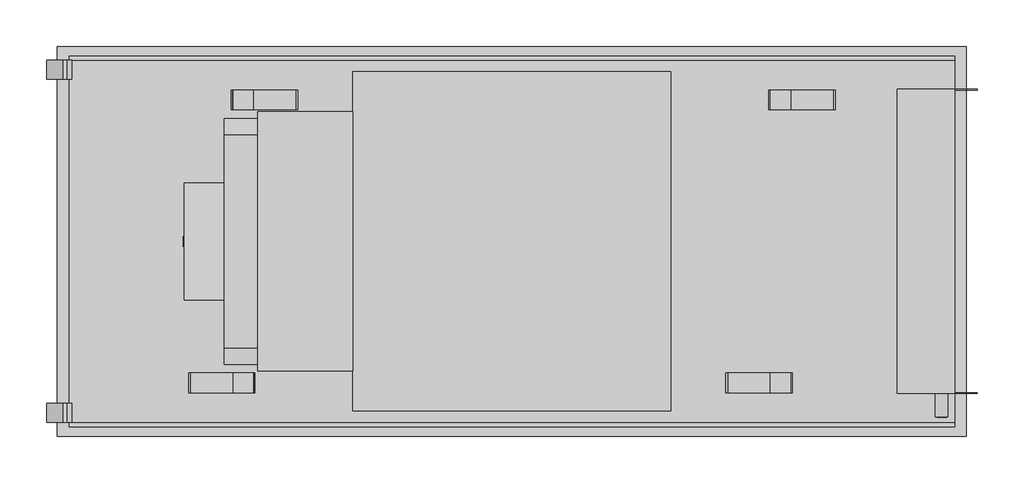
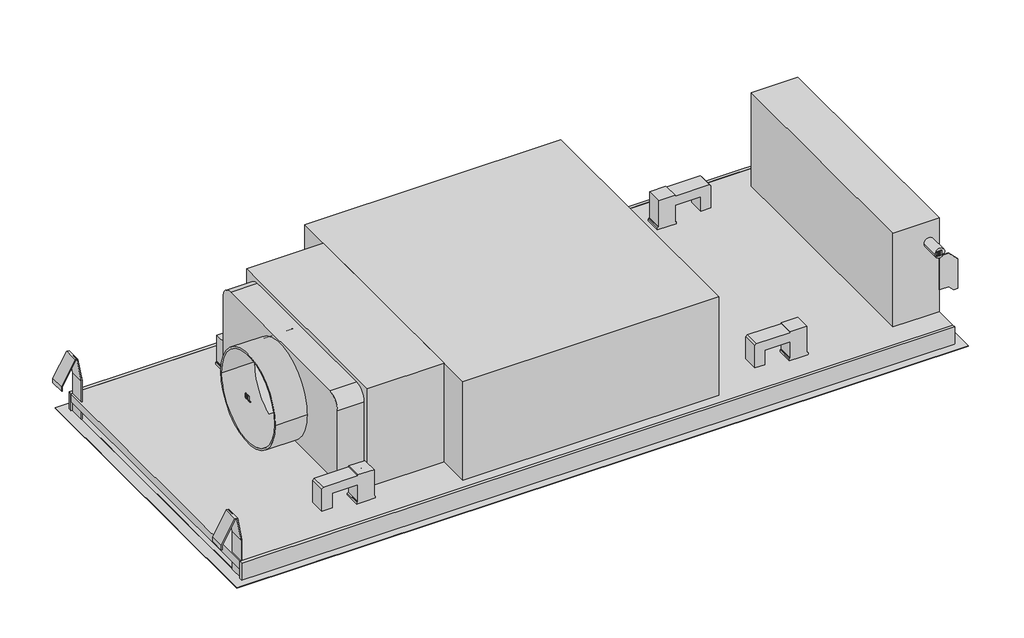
# Not in any storey: 1 proxy.
"""IFC4 building model written with IfcOpenShell, lengths in millimetres."""

import ifcopenshell
import ifcopenshell.guid

model = None  # the IFC model being written
_history = None  # IfcOwnerHistory: only IFC2X3 demands one
_inside = {}  # id of a spatial element -> (the spatial element, [elements in it])
_under = {}  # id of a project, library or spatial element -> (it, [spatial elements below it])
_declared = {}  # id of a project -> (the project, [libraries it declares])
_typed = {}  # id of a type object -> (the type object, [elements of that type])
_made_of = {}  # id of a material, layer set ... -> (it, [elements and type objects made of it])


def new_model(schema):
    """Start an empty IFC model of exactly this schema.

    Asked for "IFC4X3", IfcOpenShell would pick the latest addendum, in which some entities
    have other attributes; the version numbers below select the first issue.
    IFC2X3 requires an IfcOwnerHistory on every rooted entity: one is made here for all.
    """
    global model, _history
    if schema == "IFC4X3":
        model = ifcopenshell.file(schema_version=(4, 3, 0, 0))
    else:
        model = ifcopenshell.file(schema=schema)
    _inside.clear()
    _under.clear()
    _declared.clear()
    _typed.clear()
    _made_of.clear()
    _history = None
    if model.schema == "IFC2X3":
        org = make("IfcOrganization", Name="unknown")
        user = make(
            "IfcPersonAndOrganization",
            ThePerson=make("IfcPerson", FamilyName="unknown"),
            TheOrganization=org,
        )
        app = make(
            "IfcApplication",
            ApplicationDeveloper=org,
            Version="unknown",
            ApplicationFullName="unknown",
            ApplicationIdentifier="unknown",
        )
        _history = make(
            "IfcOwnerHistory",
            OwningUser=user,
            OwningApplication=app,
            ChangeAction="ADDED",
            CreationDate=0,
        )
    return model


def make(cls, **values):
    """One entity of the class cls with the attributes given. An attribute that is None is left unset."""
    return model.create_entity(
        cls, **{name: value for name, value in values.items() if value is not None}
    )


def rooted(cls, **values):
    """An entity with a GlobalId (a new one), such as an element, a storey or a relation."""
    return make(cls, GlobalId=ifcopenshell.guid.new(), OwnerHistory=_history, **values)


def si_unit(unit_type, name, prefix=None):
    """IfcSIUnit, for example si_unit("LENGTHUNIT", "METRE", prefix="MILLI")."""
    return make("IfcSIUnit", UnitType=unit_type, Prefix=prefix, Name=name)


def assignment(units):
    """IfcUnitAssignment: the units of a project."""
    return None if units is None else make("IfcUnitAssignment", Units=units)


def point(xyz):
    """IfcCartesianPoint."""
    return None if xyz is None else make("IfcCartesianPoint", Coordinates=xyz)


def direction(xyz):
    """IfcDirection."""
    return None if xyz is None else make("IfcDirection", DirectionRatios=xyz)


def frame(location, z_axis=None, x_axis=None):
    """IfcAxis2Placement3D, a coordinate frame: its origin and axes. An axis left out is left unset."""
    return make(
        "IfcAxis2Placement3D",
        Location=point(location),
        Axis=direction(z_axis),
        RefDirection=direction(x_axis),
    )


def frame_2d(location, x_axis=None):
    """IfcAxis2Placement2D, a coordinate frame in the plane: its origin and x axis."""
    return make(
        "IfcAxis2Placement2D", Location=point(location), RefDirection=direction(x_axis)
    )


def origin():
    """The frame at (0, 0, 0) with its axes left unset."""
    return frame((0.0, 0.0, 0.0))


def origin_with_axes():
    """The frame at (0, 0, 0) with the z axis (0, 0, 1) and the x axis (1, 0, 0) written out."""
    return frame((0.0, 0.0, 0.0), z_axis=(0.0, 0.0, 1.0), x_axis=(1.0, 0.0, 0.0))


def place(relative_to, where):
    """IfcLocalPlacement: puts the frame where relative to a parent placement (None: the world)."""
    return make(
        "IfcLocalPlacement", PlacementRelTo=relative_to, RelativePlacement=where
    )


def context(
    kind, dimensions, precision=None, world=None, true_north=None, identifier=None
):
    """IfcGeometricRepresentationContext, for example the 3D "Model" context."""
    return make(
        "IfcGeometricRepresentationContext",
        ContextIdentifier=identifier,
        ContextType=kind,
        CoordinateSpaceDimension=dimensions,
        Precision=precision,
        WorldCoordinateSystem=world,
        TrueNorth=true_north,
    )


def project(units=None, contexts=None):
    """IfcProject with its units and contexts."""
    return rooted(
        "IfcProject",
        Name="project",
        RepresentationContexts=contexts,
        UnitsInContext=assignment(units),
    )


def spatial(cls, under=None, at=None, **own):
    """A site, building, storey or space (cls), placed at a placement, below another one or the project."""
    s = rooted(cls, ObjectPlacement=at, **own)
    if under is not None:
        _under.setdefault(under.id(), (under, []))[1].append(s)
    return s


def polyline(points):
    """IfcPolyline through the points."""
    return make("IfcPolyline", Points=[point(p) for p in points])


def circle_curve(where, radius):
    """IfcCircle in the frame where."""
    return make("IfcCircle", Position=where, Radius=radius)


def ellipse_curve(where, semi_axis1, semi_axis2):
    """IfcEllipse in the frame where."""
    return make(
        "IfcEllipse", Position=where, SemiAxis1=semi_axis1, SemiAxis2=semi_axis2
    )


def trimmed(basis, trim1, trim2, sense, master):
    """IfcTrimmedCurve: the piece of a basis curve between two trims."""
    return make(
        "IfcTrimmedCurve",
        BasisCurve=basis,
        Trim1=trim1,
        Trim2=trim2,
        SenseAgreement=sense,
        MasterRepresentation=master,
    )


def segment(curve, same_sense, transition):
    """IfcCompositeCurveSegment."""
    return make(
        "IfcCompositeCurveSegment",
        Transition=transition,
        SameSense=same_sense,
        ParentCurve=curve,
    )


def composite_curve(segments, self_intersect=None):
    """IfcCompositeCurve: segments joined end to end."""
    return make("IfcCompositeCurve", Segments=segments, SelfIntersect=self_intersect)


def outline(outer, holes=None, kind="AREA"):
    """IfcArbitraryClosedProfileDef: a profile drawn as a closed curve; with holes, ...WithVoids."""
    if holes is None:
        return make("IfcArbitraryClosedProfileDef", ProfileType=kind, OuterCurve=outer)
    return make(
        "IfcArbitraryProfileDefWithVoids",
        ProfileType=kind,
        OuterCurve=outer,
        InnerCurves=holes,
    )


def extrude(swept, where, along, depth):
    """IfcExtrudedAreaSolid: the profile swept, set in the frame where, extruded along a direction by depth."""
    return make(
        "IfcExtrudedAreaSolid",
        SweptArea=swept,
        Position=where,
        ExtrudedDirection=direction(along),
        Depth=depth,
    )


def faces_of(points, faces, orient=None, outer=None):
    """IfcFace entities. A face is a list of loops; a loop is a list of indices into points, from 0.

    orient and outer hold one flag for each loop. By default every Orientation is true, the
    first loop of a face is its IfcFaceOuterBound and the others are IfcFaceBound.
    """
    made = []
    for i, loops in enumerate(faces):
        bounds = []
        for j, loop in enumerate(loops):
            is_outer = j == 0 if outer is None else outer[i][j]
            bounds.append(
                make(
                    "IfcFaceOuterBound" if is_outer else "IfcFaceBound",
                    Bound=make("IfcPolyLoop", Polygon=[points[k] for k in loop]),
                    Orientation=True if orient is None else orient[i][j],
                )
            )
        made.append(make("IfcFace", Bounds=bounds))
    return made


def faceted_brep(points, faces, orient=None, outer=None, voids=None):
    """IfcFacetedBrep: a solid bounded by flat faces; with voids (closed shells), ...WithVoids."""
    shared = [point(p) for p in points]
    hull = make("IfcClosedShell", CfsFaces=faces_of(shared, faces, orient, outer))
    if voids is None:
        return make("IfcFacetedBrep", Outer=hull)
    return make(
        "IfcFacetedBrepWithVoids",
        Outer=hull,
        Voids=[
            make(cls, CfsFaces=faces_of(shared, fs, o, b)) for cls, fs, o, b in voids
        ],
    )


def shape(context_of_items, identifier, shape_type, items):
    """IfcShapeRepresentation: the items that make up one representation, for example the "Body"."""
    return make(
        "IfcShapeRepresentation",
        ContextOfItems=context_of_items,
        RepresentationIdentifier=identifier,
        RepresentationType=shape_type,
        Items=items,
    )


def source(mapping_origin, context_of_items, identifier, shape_type, items):
    """IfcRepresentationMap: a shape defined once, which mapped items show again and again."""
    return make(
        "IfcRepresentationMap",
        MappingOrigin=mapping_origin,
        MappedRepresentation=shape(context_of_items, identifier, shape_type, items),
    )


def transform(
    local_origin,
    x_axis=None,
    y_axis=None,
    z_axis=None,
    scale=None,
    scale2=None,
    scale3=None,
    uniform=True,
):
    """IfcCartesianTransformationOperator3D, or its non-uniform kind. x_axis, y_axis, z_axis: its Axis1, 2, 3."""
    if uniform:
        return make(
            "IfcCartesianTransformationOperator3D",
            Axis1=direction(x_axis),
            Axis2=direction(y_axis),
            LocalOrigin=point(local_origin),
            Scale=scale,
            Axis3=direction(z_axis),
        )
    return make(
        "IfcCartesianTransformationOperator3DnonUniform",
        Axis1=direction(x_axis),
        Axis2=direction(y_axis),
        LocalOrigin=point(local_origin),
        Scale=scale,
        Axis3=direction(z_axis),
        Scale2=scale2,
        Scale3=scale3,
    )


def mapped(mapping_source, mapping_target):
    """IfcMappedItem: shows the shape of a source again, moved by a transform."""
    return make(
        "IfcMappedItem", MappingSource=mapping_source, MappingTarget=mapping_target
    )


def made_of(thing, what):
    """Note that an element or type object is made of a material, layer set ...; save() writes the relation."""
    if what is not None:
        _made_of.setdefault(what.id(), (what, []))[1].append(thing)
    return thing


def element(
    cls,
    number,
    at=None,
    inside=None,
    cuts=None,
    type_object=None,
    material=None,
    context=None,
    identifier="Body",
    shape_type=None,
    held_by="IfcProductDefinitionShape",
    body=None,
    shapes=None,
    **own,
):
    """One element of the class cls, such as IfcWall. Its Tag is "e" and its number.

    at: its placement. inside: the storey or other place that contains it. cuts: it is an
    opening in that element (IfcRelVoidsElement). A single representation is given by context,
    identifier, shape_type and body (its items); several are given by shapes. held_by: the class
    of the entity that holds the representations. save() writes the other relations.
    """
    e = rooted(cls, Tag="e%d" % number, ObjectPlacement=at, **own)
    if body is not None:
        shapes = [shape(context, identifier, shape_type, body)]
    if shapes is not None:
        e.Representation = make(held_by, Representations=shapes)
    if inside is not None:
        _inside.setdefault(inside.id(), (inside, []))[1].append(e)
    if cuts is not None:
        rooted(
            "IfcRelVoidsElement", RelatingBuildingElement=cuts, RelatedOpeningElement=e
        )
    if type_object is not None:
        _typed.setdefault(type_object.id(), (type_object, []))[1].append(e)
    return made_of(e, material)


def aggregate(whole, parts):
    """IfcRelAggregates: a whole, such as a stair, and the parts it consists of."""
    return rooted("IfcRelAggregates", RelatingObject=whole, RelatedObjects=parts)


def save(model, path):
    """Write the relations noted so far, then the file.

    IfcRelAggregates (storeys below a building ...), IfcRelContainedInSpatialStructure (elements
    in a storey), IfcRelDefinesByType, IfcRelAssociatesMaterial and IfcRelDeclares: one each for
    every whole, place, type object, material and project.
    """
    for whole, parts in _under.values():
        aggregate(whole, parts)
    for where, things in _inside.values():
        rooted(
            "IfcRelContainedInSpatialStructure",
            RelatedElements=things,
            RelatingStructure=where,
        )
    for kind, things in _typed.values():
        rooted("IfcRelDefinesByType", RelatedObjects=things, RelatingType=kind)
    for what, things in _made_of.values():
        rooted("IfcRelAssociatesMaterial", RelatedObjects=things, RelatingMaterial=what)
    for by, libraries in _declared.values():
        rooted("IfcRelDeclares", RelatingContext=by, RelatedDefinitions=libraries)
    model.write(path)


def plane_surface(at):
    """IfcPlane: the flat surface through the origin of the frame at, square to its z axis."""
    return make("IfcPlane", Position=at)


def cylinder_surface(at, radius):
    """IfcCylindricalSurface: all points at the distance radius from the z axis of the frame at."""
    return make("IfcCylindricalSurface", Position=at, Radius=radius)


def revolved_surface(curve, axis_point, axis_direction):
    """IfcSurfaceOfRevolution: the curve turned about the line through axis_point along axis_direction."""
    return make(
        "IfcSurfaceOfRevolution",
        SweptCurve=make("IfcArbitraryOpenProfileDef", ProfileType="CURVE", Curve=curve),
        AxisPosition=make("IfcAxis1Placement", Location=point(axis_point), Axis=direction(axis_direction)),
    )


def extruded_surface(curve, direction_of_extrusion, depth):
    """IfcSurfaceOfLinearExtrusion: the curve pushed along a direction by depth."""
    return make(
        "IfcSurfaceOfLinearExtrusion",
        SweptCurve=make("IfcArbitraryOpenProfileDef", ProfileType="CURVE", Curve=curve),
        ExtrudedDirection=direction(direction_of_extrusion),
        Depth=depth,
    )


def advanced_brep(points, edges, surfaces, faces):
    """IfcAdvancedBrep: a solid bounded by faces that lie on surfaces and meet in shared edges.

    An edge is (start, end): straight between two places in points (the first is 0);
    or (start, end, curve); or (start, end, curve, False) where it runs against its curve.
    A face is (place in surfaces, loops), or (place, loops, False) where it looks against
    its surface's normal. A loop lists edges by number (the first is 1), with a minus sign
    where the edge is run from its end to its start. The first loop is the outer one.
    """
    corners = [point(p) for p in points]
    vertices = [make("IfcVertexPoint", VertexGeometry=c) for c in corners]
    made = []
    for start, end, *more in edges:
        made.append(
            make(
                "IfcEdgeCurve",
                EdgeStart=vertices[start],
                EdgeEnd=vertices[end],
                EdgeGeometry=more[0] if more else make("IfcPolyline", Points=[corners[start], corners[end]]),
                SameSense=more[1] if len(more) > 1 else True,
            )
        )
    hull = []
    for where, loops, *sense in faces:
        bounds = []
        for j, loop in enumerate(loops):
            ring = [make("IfcOrientedEdge", EdgeElement=made[abs(k) - 1], Orientation=k > 0) for k in loop]
            bounds.append(
                make(
                    "IfcFaceOuterBound" if j == 0 else "IfcFaceBound",
                    Bound=make("IfcEdgeLoop", EdgeList=ring),
                    Orientation=True,
                )
            )
        hull.append(make("IfcAdvancedFace", Bounds=bounds, FaceSurface=surfaces[where], SameSense=sense[0] if sense else True))
    return make("IfcAdvancedBrep", Outer=make("IfcClosedShell", CfsFaces=hull))


def specialty_equipment_91089ce4(model_context):
    return source(origin(), model_context, "Body", "SolidModel", [
        extrude(outline(polyline([(0.0, 0.0), (1.1495, 0.0), (1.1495, 6.3555), (0.0, 6.3555), (0.0, 7.9515), (4.18, 7.9515), (4.18, 6.3555), (3.04, 6.3555), (3.04, 2.3238752), (7.2865, 7.9515), (11.552, 2.1987777), (11.552, 6.3555), (10.3835, 6.3555), (10.3835, 7.9515), (17.9645, 7.9515), (17.9645, 6.3555), (16.758, 6.3555), (16.758, 0.0), (17.9645, 0.0), (17.9645, -1.5485), (12.179, -1.5485), (9.405, 2.014), (6.6215, -1.5485), (0.0, -1.5485), (0.0, 0.0)])), frame((-537.4682202, 221.9339142, 5.9781829), z_axis=(-0.25881904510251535, 0.0, 0.9659258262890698), x_axis=(0.0, 1.0, 0.0)), (0.0, 0.0, 1.0), 1.0),
        extrude(outline(polyline([(0.0, 0.0), (1.14, 0.0), (1.14, 6.3555), (0.0, 6.3555), (0.0, 7.9515), (7.7045, 7.9515), (7.7045, 6.3555), (6.536, 6.3555), (6.536, -1.5485), (0.0, -1.5485), (0.0, 0.0)])), frame((-537.4682202, 260.4849142, 5.9781829), z_axis=(-0.25881904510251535, 0.0, 0.9659258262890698), x_axis=(0.0, 1.0, 0.0)), (0.0, 0.0, 1.0), 1.0),
        extrude(outline(polyline([(0.0, 0.0), (1.6999427, 0.0), (1.7088618, -3.5531031), (0.012954, -3.5617037), (0.0, 0.0)])), frame((-536.5138855, 243.2139142, 6.2338962), z_axis=(-0.25881904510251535, 0.0, 0.9659258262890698), x_axis=(-0.8744764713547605, 0.42472021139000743, -0.23431526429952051)), (0.0, 0.0, 1.0), 1.0),
        extrude(outline(polyline([(0.5859016, 2.8667553), (2.1254061, 3.588992), (2.6055523, 2.5655224), (6.1317919, 4.2198077), (5.6516457, 5.2432772), (7.0965438, 5.9211306), (10.2800342, -0.8647304), (8.835136, -1.5425838), (8.3670943, -0.544916), (3.3013503, -2.921438), (0.5859016, 2.8667553)])), frame((-536.5138855, 243.2139142, 6.2338962), z_axis=(-0.25881904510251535, 0.0, 0.9659258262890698), x_axis=(-0.8744764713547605, 0.42472021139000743, -0.23431526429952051)), (0.0, 0.0, 1.0), 1.0),
        advanced_brep(
        [(-542.9739974, 253.5974142, 4.5029144), (-542.0471916, 253.5974142, 4.7512513), (-542.0471916, 259.9529142, 4.7512513), (-542.0471916, 248.8949142, 4.7512513), (-545.1487794, 251.5074142, 3.9201833), (-542.9739974, 259.7914142, 4.5029144), (-542.9739974, 256.9224142, 4.5029144), (-544.0017425, 254.6614142, 4.2275309), (-540.8726258, 253.5974142, 5.0659752), (-539.8724096, 253.5974142, 5.3339823), (-539.8724096, 255.2219142, 5.3339823), (-540.8726258, 255.2219142, 5.0659752), (-543.2328165, 253.5974142, 5.4688402), (-544.2605616, 254.6614142, 5.1934567), (-543.2328165, 256.9224142, 5.4688402), (-543.2328165, 259.7914142, 5.4688402), (-545.4075985, 251.5074142, 4.8861091), (-542.3060106, 248.8949142, 5.7171771), (-542.3060106, 259.9529142, 5.7171771), (-542.3060106, 253.5974142, 5.7171771), (-541.1314448, 253.5974142, 6.031901), (-541.1314448, 255.2219142, 6.031901), (-540.1312286, 255.2219142, 6.2999082), (-540.1312286, 253.5974142, 6.2999082)],
        [
            (0, 1),
            (1, 2),
            (2, 3, ellipse_curve(frame((-542.0471916, 254.4239142, 4.7512513), z_axis=(0.25881904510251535, 0.0, -0.9659258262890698), x_axis=(0.0, -1.0, 0.0)), 5.529, 4.5695)),
            (3, 4, circle_curve(frame((-541.7351976, 252.571466, 4.8348498), z_axis=(0.25881904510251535, 0.0, -0.9659258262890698), x_axis=(-0.9659258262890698, 0.0, -0.25881904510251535)), 3.690713)),
            (4, 5, circle_curve(frame((-539.3126556, 254.3132316, 5.483968), z_axis=(0.25881904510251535, 0.0, -0.9659258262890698), x_axis=(-0.9659258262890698, 0.0, -0.25881904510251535)), 6.6617096)),
            (5, 6),
            (6, 7, circle_curve(frame((-542.120602, 255.1257966, 4.731581), z_axis=(-0.25881904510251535, 0.0, 0.9659258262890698), x_axis=(-0.9659258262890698, 0.0, -0.25881904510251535)), 2.0021007)),
            (7, 0, circle_curve(frame((-542.9739974, 254.6614142, 4.5029144), z_axis=(-0.25881904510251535, 0.0, 0.9659258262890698), x_axis=(-0.9659258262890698, 0.0, -0.25881904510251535)), 1.064)),
            (8, 9),
            (9, 10, circle_curve(frame((-539.8724096, 254.4096642, 5.3339823), z_axis=(-0.25881904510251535, 0.0, 0.9659258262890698), x_axis=(-0.9659258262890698, 0.0, -0.25881904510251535)), 0.81225)),
            (10, 11),
            (11, 8),
            (12, 13, circle_curve(frame((-543.2328165, 254.6614142, 5.4688402), z_axis=(0.25881904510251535, 0.0, -0.9659258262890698), x_axis=(-0.9659258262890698, 0.0, -0.25881904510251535)), 1.064)),
            (13, 14, circle_curve(frame((-542.379421, 255.1257966, 5.6975068), z_axis=(0.25881904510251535, 0.0, -0.9659258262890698), x_axis=(-0.9659258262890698, 0.0, -0.25881904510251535)), 2.0021007)),
            (14, 15),
            (15, 16, circle_curve(frame((-539.5714746, 254.3132316, 6.4498938), z_axis=(-0.25881904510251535, 0.0, 0.9659258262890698), x_axis=(-0.9659258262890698, 0.0, -0.25881904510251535)), 6.6617096)),
            (16, 17, circle_curve(frame((-541.9940166, 252.571466, 5.8007756), z_axis=(-0.25881904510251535, 0.0, 0.9659258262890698), x_axis=(-0.9659258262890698, 0.0, -0.25881904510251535)), 3.690713)),
            (17, 18, ellipse_curve(frame((-542.3060106, 254.4239142, 5.7171771), z_axis=(-0.25881904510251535, 0.0, 0.9659258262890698), x_axis=(0.0, -1.0, 0.0)), 5.529, 4.5695)),
            (18, 19),
            (19, 12),
            (20, 21),
            (21, 22),
            (22, 23, circle_curve(frame((-540.1312286, 254.4096642, 6.2999082), z_axis=(0.25881904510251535, 0.0, -0.9659258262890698), x_axis=(-0.9659258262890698, 0.0, -0.25881904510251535)), 0.81225)),
            (23, 20),
            (0, 12),
            (19, 1),
            (18, 2),
            (5, 15),
            (14, 6),
            (17, 3),
            (13, 7),
            (16, 4),
            (8, 20),
            (23, 9),
            (22, 10),
            (21, 11),
        ],
        [
            plane_surface(frame((-542.0471916, 253.5974142, 4.7512513), z_axis=(0.25881904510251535, 0.0, -0.9659258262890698), x_axis=(0.9659258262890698, 0.0, 0.25881904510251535))),
            plane_surface(frame((-542.3060106, 253.5974142, 5.7171771), z_axis=(-0.25881904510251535, 0.0, 0.9659258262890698), x_axis=(-0.9659258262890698, 0.0, -0.25881904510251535))),
            plane_surface(frame((-542.9739974, 253.5974142, 4.5029144), z_axis=(0.0, 1.0000000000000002, 0.0), x_axis=(-0.2588190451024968, 0.0, 0.9659258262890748))),
            plane_surface(frame((-542.0471916, 253.5974142, 4.7512513), z_axis=(-0.9659258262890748, 0.0, -0.2588190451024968), x_axis=(-0.2588190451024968, 0.0, 0.9659258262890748))),
            plane_surface(frame((-542.9739974, 259.7914142, 4.5029144), z_axis=(0.9659258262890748, 0.0, 0.2588190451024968), x_axis=(-0.2588190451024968, 0.0, 0.9659258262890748))),
            extruded_surface(trimmed(ellipse_curve(frame((-542.5648297, 254.4239142, 6.6831029), z_axis=(0.25881904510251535, 0.0, -0.9659258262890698), x_axis=(0.0, -1.0, 0.0)), 5.529, 4.5695), [point((-542.5648297, 259.9529142, 6.6831029))], [point((-542.5648297, 248.8949142, 6.6831029))], True, "CARTESIAN"), (0.2588190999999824, 0.0, -0.9659258), 0.9999999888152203),
            revolved_surface(polyline([(-544.3133017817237, 255.1257966, 5.179325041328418), (-544.0544827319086, 255.1257966, 4.213399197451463)]), (-542.379421, 255.1257966, 5.6975068), (-0.25881904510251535, 0.0, 0.9659258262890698)),
            revolved_surface(polyline([(-544.2605615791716, 254.6614142, 5.193456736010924), (-544.0017425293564, 254.6614142, 4.227530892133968)]), (-543.2328165, 254.6614142, 5.4688402), (-0.25881904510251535, 0.0, 0.9659258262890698)),
            cylinder_surface(frame((-541.9940166, 252.571466, 5.8007756), z_axis=(0.25881904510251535, 0.0, -0.9659258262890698), x_axis=(-0.9659258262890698, 0.0, -0.25881904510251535)), 3.690713),
            cylinder_surface(frame((-539.5714746, 254.3132316, 6.4498938), z_axis=(0.25881904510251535, 0.0, -0.9659258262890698), x_axis=(-0.9659258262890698, 0.0, -0.25881904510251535)), 6.6617096),
            plane_surface(frame((-540.8726258, 253.5974142, 5.0659752), z_axis=(0.0, 1.0000000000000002, 0.0), x_axis=(-0.2588190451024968, 0.0, 0.9659258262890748))),
            revolved_surface(polyline([(-540.9158018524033, 254.4096642, 6.089682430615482), (-540.6569827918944, 254.4096642, 5.123756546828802)]), (-540.1312286, 254.4096642, 6.2999082), (-0.25881904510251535, 0.0, 0.9659258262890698)),
            plane_surface(frame((-539.8724096, 255.2219142, 5.3339823), z_axis=(0.0, -1.0000000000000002, 0.0), x_axis=(-0.2588190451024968, 0.0, 0.9659258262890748))),
            plane_surface(frame((-540.8726258, 255.2219142, 5.0659752), z_axis=(0.9659258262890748, 0.0, 0.2588190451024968), x_axis=(-0.2588190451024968, 0.0, 0.9659258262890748))),
        ],
        [
            (0, [[1, 2, 3, 4, 5, 6, 7, 8], [9, 10, 11, 12]]),
            (1, [[13, 14, 15, 16, 17, 18, 19, 20], [21, 22, 23, 24]]),
            (2, [[-1, 25, -20, 26]]),
            (3, [[-2, -26, -19, 27]]),
            (4, [[-6, 28, -15, 29]]),
            (5, [[-3, -27, -18, 30]]),
            (6, [[-7, -29, -14, 31]]),
            (7, [[-8, -31, -13, -25]]),
            (8, [[-4, -30, -17, 32]]),
            (9, [[-5, -32, -16, -28]]),
            (10, [[-9, 33, -24, 34]]),
            (11, [[-10, -34, -23, 35]]),
            (12, [[-11, -35, -22, 36]]),
            (13, [[-12, -36, -21, -33]]),
        ],
    ),
        advanced_brep(
        [(-542.9739974, 273.4239142, 4.5029144), (-542.0471916, 273.4239142, 4.7512513), (-542.0471916, 279.7794142, 4.7512513), (-542.0471916, 268.7214142, 4.7512513), (-545.1487794, 271.3339142, 3.9201833), (-542.9739974, 279.6179142, 4.5029144), (-542.9739974, 276.7489142, 4.5029144), (-544.0017425, 274.4879142, 4.2275309), (-540.8726258, 273.4239142, 5.0659752), (-539.8724096, 273.4239142, 5.3339823), (-539.8724096, 275.0484142, 5.3339823), (-540.8726258, 275.0484142, 5.0659752), (-543.2328165, 273.4239142, 5.4688402), (-544.2605616, 274.4879142, 5.1934567), (-543.2328165, 276.7489142, 5.4688402), (-543.2328165, 279.6179142, 5.4688402), (-545.4075985, 271.3339142, 4.8861091), (-542.3060106, 268.7214142, 5.7171771), (-542.3060106, 279.7794142, 5.7171771), (-542.3060106, 273.4239142, 5.7171771), (-541.1314448, 273.4239142, 6.031901), (-541.1314448, 275.0484142, 6.031901), (-540.1312286, 275.0484142, 6.2999082), (-540.1312286, 273.4239142, 6.2999082)],
        [
            (0, 1),
            (1, 2),
            (2, 3, ellipse_curve(frame((-542.0471916, 274.2504142, 4.7512513), z_axis=(0.25881904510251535, 0.0, -0.9659258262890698), x_axis=(0.0, -1.0, 0.0)), 5.529, 4.5695)),
            (3, 4, circle_curve(frame((-541.7351976, 272.397966, 4.8348498), z_axis=(0.25881904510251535, 0.0, -0.9659258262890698), x_axis=(-0.9659258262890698, 0.0, -0.25881904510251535)), 3.690713)),
            (4, 5, circle_curve(frame((-539.3126556, 274.1397316, 5.483968), z_axis=(0.25881904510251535, 0.0, -0.9659258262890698), x_axis=(-0.9659258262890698, 0.0, -0.25881904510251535)), 6.6617096)),
            (5, 6),
            (6, 7, circle_curve(frame((-542.120602, 274.9522966, 4.731581), z_axis=(-0.25881904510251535, 0.0, 0.9659258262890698), x_axis=(-0.9659258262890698, 0.0, -0.25881904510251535)), 2.0021007)),
            (7, 0, circle_curve(frame((-542.9739974, 274.4879142, 4.5029144), z_axis=(-0.25881904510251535, 0.0, 0.9659258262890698), x_axis=(-0.9659258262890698, 0.0, -0.25881904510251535)), 1.064)),
            (8, 9),
            (9, 10, circle_curve(frame((-539.8724096, 274.2361642, 5.3339823), z_axis=(-0.25881904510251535, 0.0, 0.9659258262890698), x_axis=(-0.9659258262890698, 0.0, -0.25881904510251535)), 0.81225)),
            (10, 11),
            (11, 8),
            (12, 13, circle_curve(frame((-543.2328165, 274.4879142, 5.4688402), z_axis=(0.25881904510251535, 0.0, -0.9659258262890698), x_axis=(-0.9659258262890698, 0.0, -0.25881904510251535)), 1.064)),
            (13, 14, circle_curve(frame((-542.379421, 274.9522966, 5.6975068), z_axis=(0.25881904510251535, 0.0, -0.9659258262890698), x_axis=(-0.9659258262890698, 0.0, -0.25881904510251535)), 2.0021007)),
            (14, 15),
            (15, 16, circle_curve(frame((-539.5714746, 274.1397316, 6.4498938), z_axis=(-0.25881904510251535, 0.0, 0.9659258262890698), x_axis=(-0.9659258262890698, 0.0, -0.25881904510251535)), 6.6617096)),
            (16, 17, circle_curve(frame((-541.9940166, 272.397966, 5.8007756), z_axis=(-0.25881904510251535, 0.0, 0.9659258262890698), x_axis=(-0.9659258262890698, 0.0, -0.25881904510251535)), 3.690713)),
            (17, 18, ellipse_curve(frame((-542.3060106, 274.2504142, 5.7171771), z_axis=(-0.25881904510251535, 0.0, 0.9659258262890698), x_axis=(0.0, -1.0, 0.0)), 5.529, 4.5695)),
            (18, 19),
            (19, 12),
            (20, 21),
            (21, 22),
            (22, 23, circle_curve(frame((-540.1312286, 274.2361642, 6.2999082), z_axis=(0.25881904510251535, 0.0, -0.9659258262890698), x_axis=(-0.9659258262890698, 0.0, -0.25881904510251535)), 0.81225)),
            (23, 20),
            (0, 12),
            (19, 1),
            (18, 2),
            (5, 15),
            (14, 6),
            (17, 3),
            (13, 7),
            (16, 4),
            (8, 20),
            (23, 9),
            (22, 10),
            (21, 11),
        ],
        [
            plane_surface(frame((-542.0471916, 273.4239142, 4.7512513), z_axis=(0.25881904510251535, 0.0, -0.9659258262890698), x_axis=(0.9659258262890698, 0.0, 0.25881904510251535))),
            plane_surface(frame((-542.3060106, 273.4239142, 5.7171771), z_axis=(-0.25881904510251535, 0.0, 0.9659258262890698), x_axis=(-0.9659258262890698, 0.0, -0.25881904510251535))),
            plane_surface(frame((-542.9739974, 273.4239142, 4.5029144), z_axis=(0.0, 1.0000000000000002, 0.0), x_axis=(-0.2588190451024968, 0.0, 0.9659258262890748))),
            plane_surface(frame((-542.0471916, 273.4239142, 4.7512513), z_axis=(-0.9659258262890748, 0.0, -0.2588190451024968), x_axis=(-0.2588190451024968, 0.0, 0.9659258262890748))),
            plane_surface(frame((-542.9739974, 279.6179142, 4.5029144), z_axis=(0.9659258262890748, 0.0, 0.2588190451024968), x_axis=(-0.2588190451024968, 0.0, 0.9659258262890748))),
            extruded_surface(trimmed(ellipse_curve(frame((-542.5648297, 274.2504142, 6.6831029), z_axis=(0.25881904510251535, 0.0, -0.9659258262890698), x_axis=(0.0, -1.0, 0.0)), 5.529, 4.5695), [point((-542.5648297, 279.7794142, 6.6831029))], [point((-542.5648297, 268.7214142, 6.6831029))], True, "CARTESIAN"), (0.2588190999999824, 0.0, -0.9659258), 0.9999999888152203),
            revolved_surface(polyline([(-544.3133017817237, 274.9522966, 5.179325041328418), (-544.0544827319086, 274.9522966, 4.213399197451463)]), (-542.379421, 274.9522966, 5.6975068), (-0.25881904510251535, 0.0, 0.9659258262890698)),
            revolved_surface(polyline([(-544.2605615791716, 274.4879142, 5.193456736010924), (-544.0017425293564, 274.4879142, 4.227530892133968)]), (-543.2328165, 274.4879142, 5.4688402), (-0.25881904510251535, 0.0, 0.9659258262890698)),
            cylinder_surface(frame((-541.9940166, 272.397966, 5.8007756), z_axis=(0.25881904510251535, 0.0, -0.9659258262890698), x_axis=(-0.9659258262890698, 0.0, -0.25881904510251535)), 3.690713),
            cylinder_surface(frame((-539.5714746, 274.1397316, 6.4498938), z_axis=(0.25881904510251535, 0.0, -0.9659258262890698), x_axis=(-0.9659258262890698, 0.0, -0.25881904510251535)), 6.6617096),
            plane_surface(frame((-540.8726258, 273.4239142, 5.0659752), z_axis=(0.0, 1.0000000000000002, 0.0), x_axis=(-0.2588190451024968, 0.0, 0.9659258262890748))),
            revolved_surface(polyline([(-540.9158018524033, 274.2361642, 6.089682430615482), (-540.6569827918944, 274.2361642, 5.123756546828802)]), (-540.1312286, 274.2361642, 6.2999082), (-0.25881904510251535, 0.0, 0.9659258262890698)),
            plane_surface(frame((-539.8724096, 275.0484142, 5.3339823), z_axis=(0.0, -1.0000000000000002, 0.0), x_axis=(-0.2588190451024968, 0.0, 0.9659258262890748))),
            plane_surface(frame((-540.8726258, 275.0484142, 5.0659752), z_axis=(0.9659258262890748, 0.0, 0.2588190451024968), x_axis=(-0.2588190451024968, 0.0, 0.9659258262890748))),
        ],
        [
            (0, [[1, 2, 3, 4, 5, 6, 7, 8], [9, 10, 11, 12]]),
            (1, [[13, 14, 15, 16, 17, 18, 19, 20], [21, 22, 23, 24]]),
            (2, [[-1, 25, -20, 26]]),
            (3, [[-2, -26, -19, 27]]),
            (4, [[-6, 28, -15, 29]]),
            (5, [[-3, -27, -18, 30]]),
            (6, [[-7, -29, -14, 31]]),
            (7, [[-8, -31, -13, -25]]),
            (8, [[-4, -30, -17, 32]]),
            (9, [[-5, -32, -16, -28]]),
            (10, [[-9, 33, -24, 34]]),
            (11, [[-10, -34, -23, 35]]),
            (12, [[-11, -35, -22, 36]]),
            (13, [[-12, -36, -21, -33]]),
        ],
    ),
        extrude(outline(polyline([(-204.0, 416.5106201), (-204.0, 83.4893799), (-326.0, 83.4893799), (-326.0, 416.5106201), (-204.0, 416.5106201)])), frame((0.0, 0.0, 30.0), z_axis=(0.0, 0.0, 1.0), x_axis=(1.0, 0.0, 0.0)), (0.0, 0.0, 1.0), 166.0),
        extrude(outline(polyline([(567.6935243, 445.0), (567.6935243, 55.0), (494.1000061, 55.0), (494.1000061, 445.0), (567.6935243, 445.0)])), frame((0.0, 0.0, 30.0), z_axis=(0.0, 0.0, 1.0), x_axis=(1.0, 0.0, 0.0)), (0.0, 0.0, 1.0), 157.6000061),
        advanced_brep(
        [(-326.0, 407.6883545, 67.4832764), (-326.0, 407.6883545, 168.5167236), (-326.0, 387.0167236, 189.1883545), (-326.0, 112.9832764, 189.1883545), (-326.0, 92.3116455, 168.5167236), (-326.0, 92.3116455, 67.4832764), (-326.0, 112.9832764, 46.8116455), (-326.0, 211.5404146, 46.8116455), (-326.0, 288.4595854, 46.8116455), (-326.0, 387.0167236, 46.8116455), (-326.0, 322.0, 111.2000008), (-326.0, 282.2201755, 46.8116455), (-326.0, 217.7798245, 46.8116455), (-326.0, 178.0, 111.2000008), (-368.7057465, 407.6883545, 67.4832764), (-368.7057465, 387.0167236, 46.8116455), (-368.7057465, 288.4595854, 46.8116455), (-368.7057465, 325.0, 111.2000008), (-368.7057465, 175.0, 111.2000008), (-368.7057465, 211.5404146, 46.8116455), (-368.7057465, 112.9832764, 46.8116455), (-368.7057465, 92.3116455, 67.4832764), (-368.7057465, 92.3116455, 168.5167236), (-368.7057465, 112.9832764, 189.1883545), (-368.7057465, 387.0167236, 189.1883545), (-368.7057465, 407.6883545, 168.5167236), (-420.0, 175.0, 111.2000008), (-420.0, 325.0, 111.2000008), (-420.0, 178.0, 111.2000008), (-420.0, 322.0, 111.2000008), (-368.7057465, 322.0, 111.2000008), (-368.7057465, 178.0, 111.2000008), (-368.7057465, 217.7798245, 46.8116455), (-368.7057465, 282.2201755, 46.8116455)],
        [
            (0, 1),
            (1, 2, circle_curve(frame((-326.0, 387.0167236, 168.5167236), z_axis=(1.0, 0.0, 0.0), x_axis=(0.0, 1.0, 0.0)), 20.6716309)),
            (2, 3),
            (3, 4, circle_curve(frame((-326.0, 112.9832764, 168.5167236), z_axis=(1.0, 0.0, 0.0), x_axis=(0.0, 1.0, 0.0)), 20.6716309)),
            (4, 5),
            (5, 6, circle_curve(frame((-326.0, 112.9832764, 67.4832764), z_axis=(1.0, 0.0, 0.0), x_axis=(0.0, 1.0, 0.0)), 20.6716309)),
            (6, 7),
            (7, 8, circle_curve(frame((-326.0, 250.0, 111.2000008), z_axis=(1.0, 0.0, 0.0), x_axis=(0.0, 1.0, 0.0)), 75.0)),
            (8, 9),
            (9, 0, circle_curve(frame((-326.0, 387.0167236, 67.4832764), z_axis=(1.0, 0.0, 0.0), x_axis=(0.0, 1.0, 0.0)), 20.6716309)),
            (10, 11, circle_curve(frame((-326.0, 250.0, 111.2000008), z_axis=(-1.0, 0.0, 0.0), x_axis=(0.0, 1.0, 0.0)), 72.0)),
            (11, 12, circle_curve(frame((-326.0, 250.0, 111.2000008), z_axis=(-1.0, 0.0, 0.0), x_axis=(0.0, 1.0, 0.0)), 72.0)),
            (12, 13, circle_curve(frame((-326.0, 250.0, 111.2000008), z_axis=(-1.0, 0.0, 0.0), x_axis=(0.0, 1.0, 0.0)), 72.0)),
            (13, 10, circle_curve(frame((-326.0, 250.0, 111.2000008), z_axis=(-1.0, 0.0, 0.0), x_axis=(0.0, 1.0, 0.0)), 72.0)),
            (14, 15, circle_curve(frame((-368.7057465, 387.0167236, 67.4832764), z_axis=(-1.0, 0.0, 0.0), x_axis=(0.0, 1.0, 0.0)), 20.6716309)),
            (15, 16),
            (16, 17, circle_curve(frame((-368.7057465, 250.0, 111.2000008), z_axis=(1.0, 0.0, 0.0), x_axis=(0.0, 1.0, 0.0)), 75.0)),
            (17, 18, circle_curve(frame((-368.7057465, 250.0, 111.2000008), z_axis=(1.0, 0.0, 0.0), x_axis=(0.0, 1.0, 0.0)), 75.0)),
            (18, 19, circle_curve(frame((-368.7057465, 250.0, 111.2000008), z_axis=(1.0, 0.0, 0.0), x_axis=(0.0, 1.0, 0.0)), 75.0)),
            (19, 20),
            (20, 21, circle_curve(frame((-368.7057465, 112.9832764, 67.4832764), z_axis=(-1.0, 0.0, 0.0), x_axis=(0.0, 1.0, 0.0)), 20.6716309)),
            (21, 22),
            (22, 23, circle_curve(frame((-368.7057465, 112.9832764, 168.5167236), z_axis=(-1.0, 0.0, 0.0), x_axis=(0.0, 1.0, 0.0)), 20.6716309)),
            (23, 24),
            (24, 25, circle_curve(frame((-368.7057465, 387.0167236, 168.5167236), z_axis=(-1.0, 0.0, 0.0), x_axis=(0.0, 1.0, 0.0)), 20.6716309)),
            (25, 14),
            (0, 14),
            (25, 1),
            (24, 2),
            (23, 3),
            (22, 4),
            (21, 5),
            (20, 6),
            (19, 7),
            (15, 9),
            (8, 16),
            (26, 27, circle_curve(frame((-420.0, 250.0, 111.2000008), z_axis=(-1.0, 0.0, 0.0), x_axis=(0.0, 1.0, 0.0)), 75.0)),
            (27, 26, circle_curve(frame((-420.0, 250.0, 111.2000008), z_axis=(-1.0, 0.0, 0.0), x_axis=(0.0, 1.0, 0.0)), 75.0)),
            (28, 29, circle_curve(frame((-420.0, 250.0, 111.2000008), z_axis=(1.0, 0.0, 0.0), x_axis=(0.0, 1.0, 0.0)), 72.0)),
            (29, 28, circle_curve(frame((-420.0, 250.0, 111.2000008), z_axis=(1.0, 0.0, 0.0), x_axis=(0.0, 1.0, 0.0)), 72.0)),
            (27, 17),
            (18, 26),
            (29, 30),
            (30, 31, circle_curve(frame((-368.7057465, 250.0, 111.2000008), z_axis=(1.0, 0.0, 0.0), x_axis=(0.0, 1.0, 0.0)), 72.0)),
            (31, 28),
            (31, 32, circle_curve(frame((-368.7057465, 250.0, 111.2000008), z_axis=(1.0, 0.0, 0.0), x_axis=(0.0, 1.0, 0.0)), 72.0)),
            (32, 12),
            (11, 33),
            (33, 30, circle_curve(frame((-368.7057465, 250.0, 111.2000008), z_axis=(1.0, 0.0, 0.0), x_axis=(0.0, 1.0, 0.0)), 72.0)),
            (31, 13),
            (10, 30),
        ],
        [
            plane_surface(frame((-326.0, 407.6883545, 168.5167236), z_axis=(1.0, 0.0, 0.0), x_axis=(0.0, 0.0, 1.0))),
            plane_surface(frame((-368.7057465, 407.6883545, 168.5167236), z_axis=(-1.0, 0.0, 0.0), x_axis=(0.0, 0.0, -1.0))),
            plane_surface(frame((-326.0, 407.6883545, 67.4832764), z_axis=(0.0, 1.0, 0.0), x_axis=(-1.0, 0.0, 0.0))),
            cylinder_surface(frame((-368.7057465, 387.0167236, 168.5167236), z_axis=(1.0, 0.0, 0.0), x_axis=(0.0, 1.0, 0.0)), 20.6716309),
            plane_surface(frame((-326.0, 387.0167236, 189.1883545), z_axis=(0.0, 0.0, 1.0), x_axis=(-1.0, 0.0, 0.0))),
            cylinder_surface(frame((-368.7057465, 112.9832764, 168.5167236), z_axis=(1.0, 0.0, 0.0), x_axis=(0.0, 1.0, 0.0)), 20.6716309),
            plane_surface(frame((-326.0, 92.3116455, 168.5167236), z_axis=(0.0, -1.0, 0.0), x_axis=(-1.0, 0.0, 0.0))),
            cylinder_surface(frame((-368.7057465, 112.9832764, 67.4832764), z_axis=(1.0, 0.0, 0.0), x_axis=(0.0, 1.0, 0.0)), 20.6716309),
            plane_surface(frame((-326.0, 112.9832764, 46.8116455), z_axis=(0.0, 0.0, -1.0), x_axis=(-1.0, 0.0, 0.0))),
            cylinder_surface(frame((-368.7057465, 387.0167236, 67.4832764), z_axis=(1.0, 0.0, 0.0), x_axis=(0.0, 1.0, 0.0)), 20.6716309),
            plane_surface(frame((-420.0, 325.0, 111.2000008), z_axis=(-1.0, 0.0, 0.0), x_axis=(0.0, 0.0, -1.0))),
            cylinder_surface(frame((-420.0, 250.0, 111.2000008), z_axis=(1.0, 0.0, 0.0), x_axis=(0.0, 1.0, 0.0)), 75.0),
            revolved_surface(polyline([(-420.0, 322.0, 111.2000008), (-368.7057465, 322.0, 111.2000008)]), (0.0, 250.0, 111.2000008), (-1.0, 0.0, 0.0)),
            revolved_surface(polyline([(-420.0, 322.0, 111.2000008), (-326.0, 322.0, 111.2000008)]), (0.0, 250.0, 111.2000008), (-1.0, 0.0, 0.0)),
            revolved_surface(polyline([(-326.0, 322.0, 111.2000008), (-368.7057465, 322.0, 111.2000008)]), (-420.0, 250.0, 111.2000008), (1.0, 0.0, 0.0)),
        ],
        [
            (0, [[1, 2, 3, 4, 5, 6, 7, 8, 9, 10], [11, 12, 13, 14]]),
            (1, [[15, 16, 17, 18, 19, 20, 21, 22, 23, 24, 25, 26]]),
            (2, [[-1, 27, -26, 28]]),
            (3, [[-2, -28, -25, 29]]),
            (4, [[-3, -29, -24, 30]]),
            (5, [[-4, -30, -23, 31]]),
            (6, [[-5, -31, -22, 32]]),
            (7, [[-6, -32, -21, 33]]),
            (8, [[-33, -20, 34, -7]]),
            (8, [[35, -9, 36, -16]]),
            (9, [[-10, -35, -15, -27]]),
            (10, [[37, 38], [39, 40]]),
            (11, [[-38, 41, -17, -36, -8, -34, -19, 42]]),
            (11, [[-37, -42, -18, -41]]),
            (12, [[-40, 43, 44, 45]]),
            (13, [[-39, -45, 46, 47, -12, 48, 49, -43]]),
            (14, [[50, -13, -47, -46]]),
            (14, [[51, -49, -48, -11]]),
            (14, [[-50, -44, -51, -14]]),
        ],
    ),
        extrude(outline(polyline([(204.0, 32.1999969), (-204.0, 32.1999969), (-204.0, 467.8000031), (204.0, 467.8000031), (204.0, 32.1999969)])), frame((0.0, 0.0, 30.0), z_axis=(0.0, 0.0, 1.0), x_axis=(1.0, 0.0, 0.0)), (0.0, 0.0, 1.0), 166.0),
        extrude(outline(polyline([(122.8000031, 583.0), (122.8000031, 567.6935243), (66.8000031, 567.6935243), (66.8000031, 583.0), (58.7999992, 591.0000038), (58.7999992, 597.0), (108.8000031, 597.0), (122.8000031, 583.0)])), frame((0.0, 55.0, 0.0), z_axis=(0.0, 1.0, 0.0), x_axis=(0.0, 0.0, 1.0)), (0.0, 0.0, 1.0), 0.8000031),
        extrude(outline(polyline([(122.8000031, 583.0), (122.8000031, 567.6935243), (66.8000031, 567.6935243), (66.8000031, 583.0), (58.7999992, 591.0000038), (58.7999992, 597.0), (108.8000031, 597.0), (122.8000031, 583.0)])), frame((0.0, 444.0, 0.0), z_axis=(0.0, 1.0, 0.0), x_axis=(0.0, 0.0, 1.0)), (0.0, 0.0, 1.0), 1.0),
        extrude(outline(polyline([(0.8, -564.0250244), (64.8559268, -564.0250244), (103.4362253, -570.827772), (104.1754532, -575.0201416), (66.657778, -596.5250244), (58.5929146, -596.5250244), (58.5929146, -595.2750244), (66.3249664, -595.2750244), (103.5504532, -573.9376221), (103.1458864, -572.0883804), (64.5054245, -565.2750244), (0.8, -565.2750244), (0.8, -564.0250244)])), frame((0.0, 17.8, 0.0), z_axis=(0.0, 1.0, 0.0), x_axis=(0.0, 0.0, 1.0)), (0.0, 0.0, 1.0), 24.0),
        extrude(outline(polyline([(0.8, -564.0250244), (64.8559268, -564.0250244), (103.4362253, -570.827772), (104.1754532, -575.0201416), (66.657778, -596.5250244), (58.5929146, -596.5250244), (58.5929146, -595.2750244), (66.3249664, -595.2750244), (103.5504532, -573.9376221), (103.1458864, -572.0883804), (64.5054245, -565.2750244), (0.8, -565.2750244), (0.8, -564.0250244)])), frame((0.0, 458.2, 0.0), z_axis=(0.0, 1.0, 0.0), x_axis=(0.0, 0.0, 1.0)), (0.0, 0.0, 1.0), 24.0),
        extrude(outline(polyline([(37.2999992, -414.4500122), (37.2999992, -398.4500122), (61.7999992, -398.4500122), (61.7999992, -357.4500122), (34.0, -357.4500122), (34.0, -358.4500122), (33.0, -359.4500122), (30.0, -359.4500122), (30.0, -329.4500122), (33.0, -329.4500122), (34.0, -330.4500122), (34.0, -331.4500122), (78.3000031, -331.4500122), (78.3000031, -357.4500122), (76.8000031, -357.4500122), (76.8000031, -411.9500122), (74.3000031, -414.4500122), (37.2999992, -414.4500122)])), frame((0.0, 55.8000031, 0.0), z_axis=(0.0, 1.0, 0.0), x_axis=(0.0, 0.0, 1.0)), (0.0, 0.0, 1.0), 25.1139038),
        extrude(outline(polyline([(37.2999992, -274.4499817), (74.3000031, -274.4499817), (76.8000031, -276.9499817), (76.8000031, -331.4499817), (78.3000031, -331.4499817), (78.3000031, -357.4499817), (34.0, -357.4499817), (34.0, -358.4499817), (33.0, -359.4499817), (30.0, -359.4499817), (30.0, -329.4499817), (33.0, -329.4499817), (34.0, -330.4499817), (34.0, -331.4499817), (61.7999992, -331.4499817), (61.7999992, -290.4499817), (37.2999992, -290.4499817), (37.2999992, -274.4499817)])), frame((0.0, 419.0860931, 0.0), z_axis=(0.0, 1.0, 0.0), x_axis=(0.0, 0.0, 1.0)), (0.0, 0.0, 1.0), 25.1139038),
        extrude(outline(polyline([(37.2999992, 274.4500122), (37.2999992, 290.4500122), (61.7999992, 290.4500122), (61.7999992, 331.4500122), (34.0, 331.4500122), (34.0, 330.4500122), (33.0, 329.4500122), (30.0, 329.4500122), (30.0, 359.4500122), (33.0, 359.4500122), (34.0, 358.4500122), (34.0, 357.4500122), (78.3000031, 357.4500122), (78.3000031, 331.4500122), (76.8000031, 331.4500122), (76.8000031, 276.9500122), (74.3000031, 274.4500122), (37.2999992, 274.4500122)])), frame((0.0, 55.8000031, 0.0), z_axis=(0.0, 1.0, 0.0), x_axis=(0.0, 0.0, 1.0)), (0.0, 0.0, 1.0), 25.1139038),
        extrude(outline(polyline([(37.2999992, 414.4500122), (74.3000031, 414.4500122), (76.8000031, 411.9500122), (76.8000031, 357.4500122), (78.3000031, 357.4500122), (78.3000031, 331.4500122), (34.0, 331.4500122), (34.0, 330.4500122), (33.0, 329.4500122), (30.0, 329.4500122), (30.0, 359.4500122), (33.0, 359.4500122), (34.0, 358.4500122), (34.0, 357.4500122), (61.7999992, 357.4500122), (61.7999992, 398.4500122), (37.2999992, 398.4500122), (37.2999992, 414.4500122)])), frame((0.0, 419.0860931, 0.0), z_axis=(0.0, 1.0, 0.0), x_axis=(0.0, 0.0, 1.0)), (0.0, 0.0, 1.0), 25.1139038),
        extrude(outline(composite_curve([segment(trimmed(circle_curve(frame_2d((152.6000061, 551.1768188)), 8.0), [point((152.6000061, 543.1768188))], [point((152.6000061, 559.1768188))], False, "CARTESIAN"), True, "CONTINUOUS"), segment(trimmed(circle_curve(frame_2d((152.6000061, 551.1768188)), 8.0), [point((152.6000061, 559.1768188))], [point((152.6000061, 543.1768188))], False, "CARTESIAN"), True, "CONTINUOUS")], self_intersect=False)), frame((0.0, 25.0, 0.0), z_axis=(0.0, 1.0, 0.0), x_axis=(0.0, 0.0, 1.0)), (0.0, 0.0, 1.0), 30.0),
        extrude(outline(polyline([(148.6000061, 545.2750106), (148.6000061, 551.1768188), (149.6045692, 551.1768188), (149.6045692, 546.2795737), (152.2415473, 546.2795737), (152.2415473, 550.8001077), (153.2461104, 550.8001077), (153.2461104, 546.2795737), (155.6319478, 546.2795737), (155.6319478, 551.0512485), (156.6365109, 551.0512485), (156.6365109, 545.2750106), (148.6000061, 545.2750106)])), frame((0.0, 24.0, 0.0), z_axis=(0.0, 1.0, 0.0), x_axis=(0.0, 0.0, 1.0)), (0.0, 0.0, 1.0), 1.0),
        extrude(outline(polyline([(148.6000061, 552.6836635), (148.6000061, 557.706479), (149.6045692, 557.706479), (149.6045692, 553.6882266), (156.6365109, 553.6882266), (156.6365109, 552.6836635), (148.6000061, 552.6836635)])), frame((0.0, 24.0, 0.0), z_axis=(0.0, 1.0, 0.0), x_axis=(0.0, 0.0, 1.0)), (0.0, 0.0, 1.0), 1.0),
        extrude(outline(polyline([(250.9417779, 117.0365048), (250.9417779, 112.4355273), (251.4499456, 110.4067807), (253.1510319, 109.8789927), (254.3321784, 110.1458298), (255.0130053, 110.9041572), (255.2111711, 112.4355273), (255.2111711, 117.0365048), (256.2157342, 117.0365048), (256.2157342, 112.4002107), (255.9106374, 110.3881414), (254.89234, 109.262913), (253.0568541, 108.8744296), (251.1929187, 109.3207931), (250.209938, 110.4783951), (249.9372148, 112.4002107), (249.9372148, 117.0365048), (250.9417779, 117.0365048)])), frame((-421.0, 0.0, 0.0), z_axis=(1.0, 0.0, 0.0), x_axis=(0.0, 1.0, 0.0)), (0.0, 0.0, 1.0), 1.0),
        extrude(outline(polyline([(248.1792294, 109.0), (243.1564139, 109.0), (243.1564139, 110.0045631), (247.1746663, 110.0045631), (247.1746663, 117.0365048), (248.1792294, 117.0365048), (248.1792294, 109.0)])), frame((-421.0, 0.0, 0.0), z_axis=(1.0, 0.0, 0.0), x_axis=(0.0, 1.0, 0.0)), (0.0, 0.0, 1.0), 1.0),
        extrude(outline(polyline([(582.5, 500.0), (582.5, 0.0), (-582.5, 0.0), (-582.5, 500.0), (582.5, 500.0)]), holes=[polyline([(562.5, 482.6999969), (-564.7000122, 482.6999969), (-564.7000122, 17.3000031), (562.5, 17.3000031), (562.5, 482.6999969)])]), origin_with_axes(), (0.0, 0.0, 1.0), 0.8),
        faceted_brep([(564.2615168, 17.3000031, 0.0), (564.4698455, 17.3000031, 0.7723983), (561.2954399, 17.3000031, 0.8), (-564.4698448, 17.3000031, 0.772397), (-564.2615112, 17.3000031, 0.0), (-561.2955102, 17.3000031, 0.8), (-564.2615112, 482.6999969, 0.0), (-564.4698448, 482.6999969, 0.772397), (-561.2955102, 482.6999969, 0.8), (564.4698455, 482.6999969, 0.7723983), (564.2615168, 482.6999969, 0.0), (561.2954399, 482.6999969, 0.8), (-504.3279114, 17.3000031, 16.1654968), (-504.3279114, 482.6999969, 16.1654968), (504.3263838, 482.6999969, 16.1654968), (504.3263838, 17.3000031, 16.1654968), (498.7323914, 197.7705688, 16.1654968), (487.1442261, 197.7705688, 16.1654968), (487.1442261, 171.9410553, 16.1654968), (498.7323914, 171.9410553, 16.1654968), (498.7323914, 224.0850792, 16.1654968), (498.7323914, 275.9145947, 16.1654968), (487.1442261, 275.9145947, 16.1654968), (487.1442261, 224.0850792, 16.1654968), (498.7323914, 276.1570797, 16.1654968), (498.7323914, 301.9865952, 16.1654968), (487.1442261, 301.9865952, 16.1654968), (487.1442261, 276.1570797, 16.1654968), (498.7323914, 302.2290802, 16.1654968), (498.7323914, 328.0585937, 16.1654968), (487.1442261, 328.0585937, 16.1654968), (487.1442261, 302.2290802, 16.1654968), (498.7323914, 198.0130539, 16.1654968), (498.7323914, 223.8425694, 16.1654968), (487.1442261, 223.8425694, 16.1654968), (487.1442261, 198.0130539, 16.1654968), (504.4323766, 482.6999969, 16.9654968), (504.4323766, 17.3000031, 16.9654968), (-504.4339068, 482.6999969, 16.9654968), (-504.4339068, 17.3000031, 16.9654968), (567.6935243, 487.8000031, 0.8), (567.6935243, 487.8000031, 30.0), (567.6935243, 482.6999969, 30.0), (567.6935243, 482.6999969, 0.8), (-567.6935243, 487.8000031, 0.8), (-567.6935243, 482.6999969, 0.8), (-567.6935243, 482.6999969, 30.0), (-567.6935243, 487.8000031, 30.0), (567.6935243, 12.1999969, 0.8), (567.6935243, 17.3000031, 0.8), (567.6935243, 17.3000031, 30.0), (567.6935243, 12.1999969, 30.0), (-567.6935243, 12.1999969, 0.8), (-567.6935243, 12.1999969, 30.0), (-567.6935243, 17.3000031, 30.0), (-567.6935243, 17.3000031, 0.8), (487.1442261, 302.2290802, 14.6286736), (498.7323914, 302.2290802, 14.6286736), (487.1442261, 328.0585937, 14.6286736), (498.7323914, 328.0585937, 14.6286736), (487.1442261, 276.1570797, 14.6286736), (498.7323914, 276.1570797, 14.6286736), (487.1442261, 301.9865952, 14.6286736), (498.7323914, 301.9865952, 14.6286736), (487.1442261, 224.0850792, 14.6286736), (498.7323914, 224.0850792, 14.6286736), (498.7323914, 197.7705688, 14.6286736), (498.7323914, 171.9410553, 14.6286736), (487.1442261, 171.9410553, 14.6286736), (487.1442261, 197.7705688, 14.6286736), (498.7323914, 198.0130539, 14.6286736), (487.1442261, 198.0130539, 14.6286736), (487.1442261, 223.8425694, 14.6286736), (498.7323914, 223.8425694, 14.6286736), (487.1442261, 275.9145947, 14.6286736), (498.7323914, 275.9145947, 14.6286736)], [[[0, 1, 2]], [[3, 4, 5]], [[6, 7, 8]], [[9, 10, 11]], [[12, 13, 14, 15], [16, 17, 18, 19], [20, 21, 22, 23], [24, 25, 26, 27], [28, 29, 30, 31], [32, 33, 34, 35]], [[15, 14, 11, 10, 0, 2]], [[1, 0, 10, 9]], [[1, 9, 36, 37]], [[37, 36, 38, 39]], [[39, 38, 7, 3]], [[4, 3, 7, 6]], [[13, 12, 5, 4, 6, 8]], [[40, 41, 42, 43]], [[44, 45, 46, 47]], [[41, 40, 44, 47]], [[42, 41, 47, 46]], [[43, 42, 46, 45, 7, 38, 36, 9]], [[8, 11, 14, 13]], [[40, 43, 9, 11, 8, 7, 45, 44]], [[48, 49, 50, 51]], [[52, 53, 54, 55]], [[48, 51, 53, 52]], [[51, 50, 54, 53]], [[50, 49, 1, 37, 39, 3, 55, 54]], [[2, 5, 12, 15]], [[49, 48, 52, 55, 3, 5, 2, 1]], [[56, 57, 28, 31]], [[58, 56, 31, 30]], [[59, 58, 30, 29]], [[57, 59, 29, 28]], [[60, 61, 24, 27]], [[62, 60, 27, 26]], [[63, 62, 26, 25]], [[61, 63, 25, 24]], [[64, 65, 20, 23]], [[66, 67, 68, 69]], [[70, 71, 72, 73]], [[61, 60, 62, 63]], [[65, 64, 74, 75]], [[57, 56, 58, 59]], [[66, 69, 17, 16]], [[67, 66, 16, 19]], [[71, 70, 32, 35]], [[75, 74, 22, 21]], [[69, 68, 18, 17]], [[68, 67, 19, 18]], [[70, 73, 33, 32]], [[73, 72, 34, 33]], [[72, 71, 35, 34]], [[65, 75, 21, 20]], [[74, 64, 23, 22]]]),
        extrude(outline(polyline([(567.6935243, 482.6999969), (567.6935243, 17.3000031), (-567.6935243, 17.3000031), (-567.6935243, 482.6999969), (567.6935243, 482.6999969)])), frame((0.0, 0.0, 16.9654968), z_axis=(0.0, 0.0, 1.0), x_axis=(1.0, 0.0, 0.0)), (0.0, 0.0, 1.0), 13.0345032),
        extrude(outline(polyline([(482.5, 462.4152985), (482.5, 37.5847015), (-482.5, 37.5847015), (-482.5, 462.4152985), (482.5, 462.4152985)])), frame((0.0, 0.0, 0.8), z_axis=(0.0, 0.0, 1.0), x_axis=(1.0, 0.0, 0.0)), (0.0, 0.0, 1.0), 13.8286735),
    ])


model = new_model("IFC4")

# Units and contexts
model_context = context("Model", 3, world=origin())
ifc_project = project(units=[si_unit("LENGTHUNIT", "METRE", prefix="MILLI")], contexts=[model_context])

# Site, building
site = spatial("IfcSite", under=ifc_project)
building = spatial("IfcBuilding", under=site)

# Proxy
placement = place(None, origin())
specialty_equipment_shape = specialty_equipment_91089ce4(model_context)
element("IfcBuildingElementProxy", 1, Name="12564270_BNE_DAC2240_WSMA : 28C2240H_BNE_12564270_DAC2240_WSMA", ObjectType="12564270_BNE_DAC2240_WSMA : 28C2240H_BNE_12564270_DAC2240_WSMA", at=placement, inside=building, context=model_context, shape_type="MappedRepresentation", body=[
    mapped(specialty_equipment_shape, transform((0.0, 0.0, 0.0), x_axis=(1.0, 0.0, 0.0), y_axis=(0.0, 1.0, 0.0), z_axis=(0.0, 0.0, 1.0))),
])

save(model, "model.ifc")
